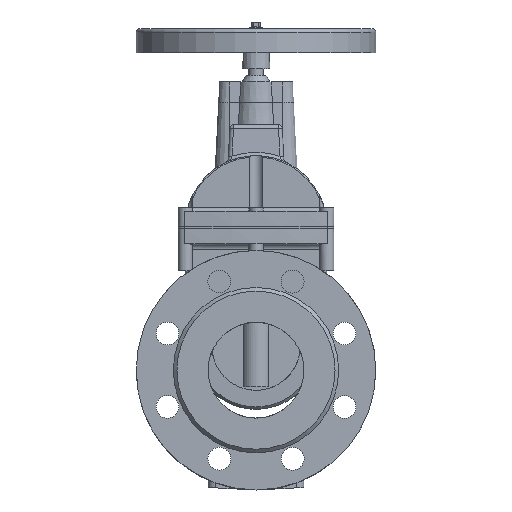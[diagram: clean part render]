
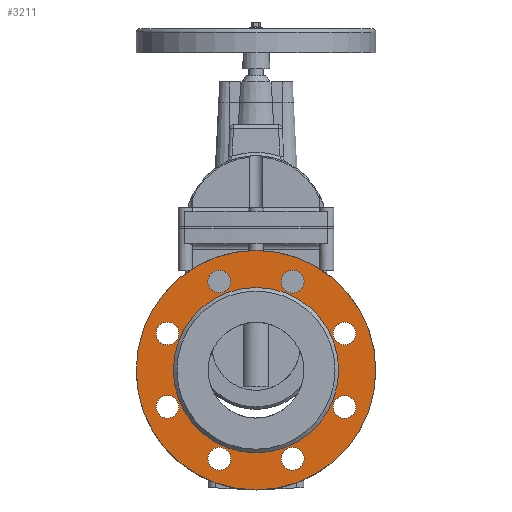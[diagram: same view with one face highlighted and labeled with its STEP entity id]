
A CAD part, left-side view. The second image highlights one B-rep face of the part: STEP entity #3211.
In plain terms, the highlighted planar face has unit normal (-1, 0, 0).
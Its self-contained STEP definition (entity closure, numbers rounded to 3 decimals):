
#3211=ADVANCED_FACE('',(#8205,#8207,#8209,#8211,#8213,#8215,#8217,#8219,#8221,#8223),
#8225,.F.);
#8205=FACE_BOUND('',#8206,.T.);
#8206=EDGE_LOOP('',(#16601));
#8207=FACE_BOUND('',#8208,.T.);
#8208=EDGE_LOOP('',(#16602));
#8209=FACE_BOUND('',#8210,.T.);
#8210=EDGE_LOOP('',(#16603));
#8211=FACE_BOUND('',#8212,.T.);
#8212=EDGE_LOOP('',(#16604));
#8213=FACE_BOUND('',#8214,.T.);
#8214=EDGE_LOOP('',(#16605));
#8215=FACE_BOUND('',#8216,.T.);
#8216=EDGE_LOOP('',(#16606));
#8217=FACE_BOUND('',#8218,.T.);
#8218=EDGE_LOOP('',(#16607));
#8219=FACE_BOUND('',#8220,.T.);
#8220=EDGE_LOOP('',(#16608));
#8221=FACE_BOUND('',#8222,.T.);
#8222=EDGE_LOOP('',(#16609));
#8223=FACE_BOUND('',#8224,.T.);
#8224=EDGE_LOOP('',(#16610));
#8225=PLANE('',#8226);
#8226=AXIS2_PLACEMENT_3D('',#8227,#8228,#8229);
#8227=CARTESIAN_POINT('',(-87.,0.,0.));
#8228=DIRECTION('',(1.,0.,0.));
#8229=DIRECTION('',(0.,1.,0.));
#16601=ORIENTED_EDGE('',*,*,#19204,.F.);
#16602=ORIENTED_EDGE('',*,*,#19218,.T.);
#16603=ORIENTED_EDGE('',*,*,#19217,.T.);
#16604=ORIENTED_EDGE('',*,*,#19216,.T.);
#16605=ORIENTED_EDGE('',*,*,#19215,.T.);
#16606=ORIENTED_EDGE('',*,*,#19214,.T.);
#16607=ORIENTED_EDGE('',*,*,#19213,.T.);
#16608=ORIENTED_EDGE('',*,*,#19212,.T.);
#16609=ORIENTED_EDGE('',*,*,#19367,.F.);
#16610=ORIENTED_EDGE('',*,*,#19211,.T.);
#19204=EDGE_CURVE('',#21773,#21773,#21774,.T.);
#19211=EDGE_CURVE('',#21783,#21783,#21784,.T.);
#19212=EDGE_CURVE('',#21785,#21785,#21786,.T.);
#19213=EDGE_CURVE('',#21787,#21787,#21788,.T.);
#19214=EDGE_CURVE('',#21789,#21789,#21790,.T.);
#19215=EDGE_CURVE('',#21791,#21791,#21792,.T.);
#19216=EDGE_CURVE('',#21793,#21793,#21794,.T.);
#19217=EDGE_CURVE('',#21795,#21795,#21796,.T.);
#19218=EDGE_CURVE('',#21797,#21797,#21798,.T.);
#19367=EDGE_CURVE('',#22026,#22026,#22027,.T.);
#21773=VERTEX_POINT('',#30017);
#21774=CIRCLE('',#30018,100.);
#21783=VERTEX_POINT('',#30044);
#21784=CIRCLE('',#30045,9.5);
#21785=VERTEX_POINT('',#30049);
#21786=CIRCLE('',#30050,9.5);
#21787=VERTEX_POINT('',#30054);
#21788=CIRCLE('',#30055,9.5);
#21789=VERTEX_POINT('',#30059);
#21790=CIRCLE('',#30060,9.5);
#21791=VERTEX_POINT('',#30064);
#21792=CIRCLE('',#30065,9.5);
#21793=VERTEX_POINT('',#30069);
#21794=CIRCLE('',#30070,9.5);
#21795=VERTEX_POINT('',#30074);
#21796=CIRCLE('',#30075,9.5);
#21797=VERTEX_POINT('',#30079);
#21798=CIRCLE('',#30080,9.5);
#22026=VERTEX_POINT('',#30763);
#22027=CIRCLE('',#30764,69.);
#30017=CARTESIAN_POINT('',(-87.,100.,0.));
#30018=AXIS2_PLACEMENT_3D('',#30019,#30020,#30021);
#30019=CARTESIAN_POINT('',(-87.,0.,0.));
#30020=DIRECTION('',(1.,0.,0.));
#30021=DIRECTION('',(0.,1.,0.));
#30044=CARTESIAN_POINT('',(-87.,83.41,30.615));
#30045=AXIS2_PLACEMENT_3D('',#30046,#30047,#30048);
#30046=CARTESIAN_POINT('',(-87.,73.91,30.615));
#30047=DIRECTION('',(1.,0.,0.));
#30048=DIRECTION('',(0.,1.,0.));
#30049=CARTESIAN_POINT('',(-87.,80.628,-37.332));
#30050=AXIS2_PLACEMENT_3D('',#30051,#30052,#30053);
#30051=CARTESIAN_POINT('',(-87.,73.91,-30.615));
#30052=DIRECTION('',(1.,0.,0.));
#30053=DIRECTION('',(0.,0.707,-0.707));
#30054=CARTESIAN_POINT('',(-87.,30.615,-83.41));
#30055=AXIS2_PLACEMENT_3D('',#30056,#30057,#30058);
#30056=CARTESIAN_POINT('',(-87.,30.615,-73.91));
#30057=DIRECTION('',(1.,0.,0.));
#30058=DIRECTION('',(0.,0.,-1.));
#30059=CARTESIAN_POINT('',(-87.,-37.332,-80.628));
#30060=AXIS2_PLACEMENT_3D('',#30061,#30062,#30063);
#30061=CARTESIAN_POINT('',(-87.,-30.615,-73.91));
#30062=DIRECTION('',(1.,0.,0.));
#30063=DIRECTION('',(0.,-0.707,-0.707));
#30064=CARTESIAN_POINT('',(-87.,-83.41,-30.615));
#30065=AXIS2_PLACEMENT_3D('',#30066,#30067,#30068);
#30066=CARTESIAN_POINT('',(-87.,-73.91,-30.615));
#30067=DIRECTION('',(1.,0.,0.));
#30068=DIRECTION('',(0.,-1.,0.));
#30069=CARTESIAN_POINT('',(-87.,-80.628,37.332));
#30070=AXIS2_PLACEMENT_3D('',#30071,#30072,#30073);
#30071=CARTESIAN_POINT('',(-87.,-73.91,30.615));
#30072=DIRECTION('',(1.,0.,0.));
#30073=DIRECTION('',(0.,-0.707,0.707));
#30074=CARTESIAN_POINT('',(-87.,-30.615,83.41));
#30075=AXIS2_PLACEMENT_3D('',#30076,#30077,#30078);
#30076=CARTESIAN_POINT('',(-87.,-30.615,73.91));
#30077=DIRECTION('',(1.,0.,0.));
#30078=DIRECTION('',(0.,0.,1.));
#30079=CARTESIAN_POINT('',(-87.,37.332,80.628));
#30080=AXIS2_PLACEMENT_3D('',#30081,#30082,#30083);
#30081=CARTESIAN_POINT('',(-87.,30.615,73.91));
#30082=DIRECTION('',(1.,0.,0.));
#30083=DIRECTION('',(0.,0.707,0.707));
#30763=CARTESIAN_POINT('',(-87.,-69.,0.));
#30764=AXIS2_PLACEMENT_3D('',#30765,#30766,#30767);
#30765=CARTESIAN_POINT('',(-87.,0.,0.));
#30766=DIRECTION('',(-1.,0.,0.));
#30767=DIRECTION('',(0.,-1.,0.));
